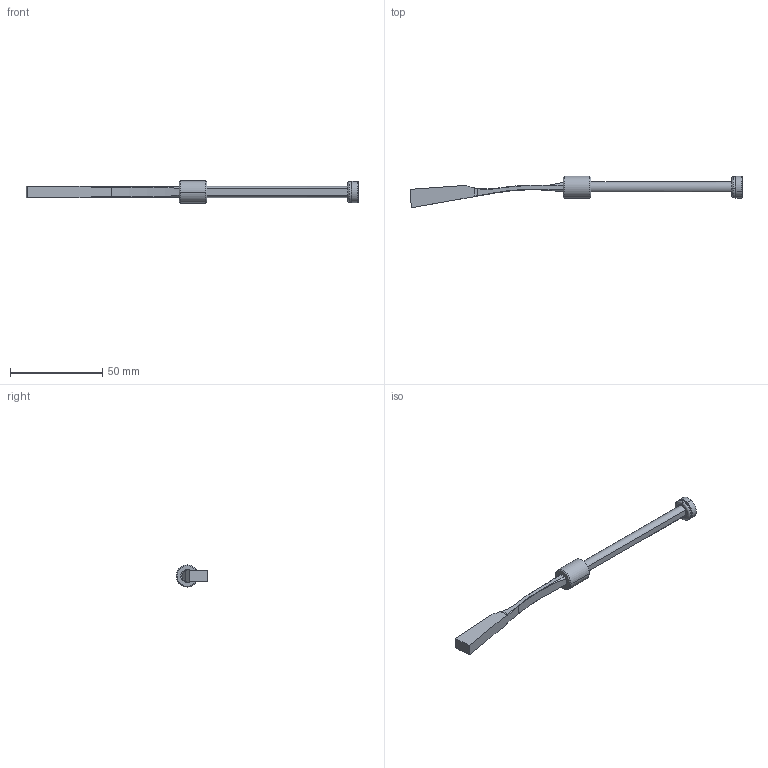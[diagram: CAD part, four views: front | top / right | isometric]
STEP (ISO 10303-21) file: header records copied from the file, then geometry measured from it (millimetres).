
FILE_DESCRIPTION (( 'STEP AP214' ), '1' );
FILE_NAME ('PW060630.STEP', '2020-02-10T08:38:55', ( '' ), ( '' ), 'SwSTEP 2.0', 'SolidWorks 2018', '' );
FILE_SCHEMA (( 'AUTOMOTIVE_DESIGN' ));
Length unit declared in the file: millimetre
Products named in the file (6): 9FP1205M4; PW060630; 1DIN7991416_DIN 7991 - M4 x 16 --- 16C; 9PW060630; 9CS061215; 3JT7.5X2X11.5
Assembly tree (5 placements, depth 2):
  PW060630
    9PW060630
    9FP1205M4
    3JT7.5X2X11.5
    1DIN7991416_DIN 7991 - M4 x 16 --- 16C
    9CS061215
Bounding box: 179.5 x 17.05 x 12 mm (x, y, z)
Volume: 6536.5 mm3; surface area: 5865.7 mm2
Topology: 5 solids, 5 shells, 102 faces, 227 edges, 132 vertices
Faces by surface type: plane 30, cone 28, cylinder 26, torus 14, bspline 4
Entity records: 3215 total; most frequent: CARTESIAN_POINT 635, DIRECTION 509, ORIENTED_EDGE 446, EDGE_CURVE 223, AXIS2_PLACEMENT_3D 206, VERTEX_POINT 132, EDGE_LOOP 109, FACE_OUTER_BOUND 102
